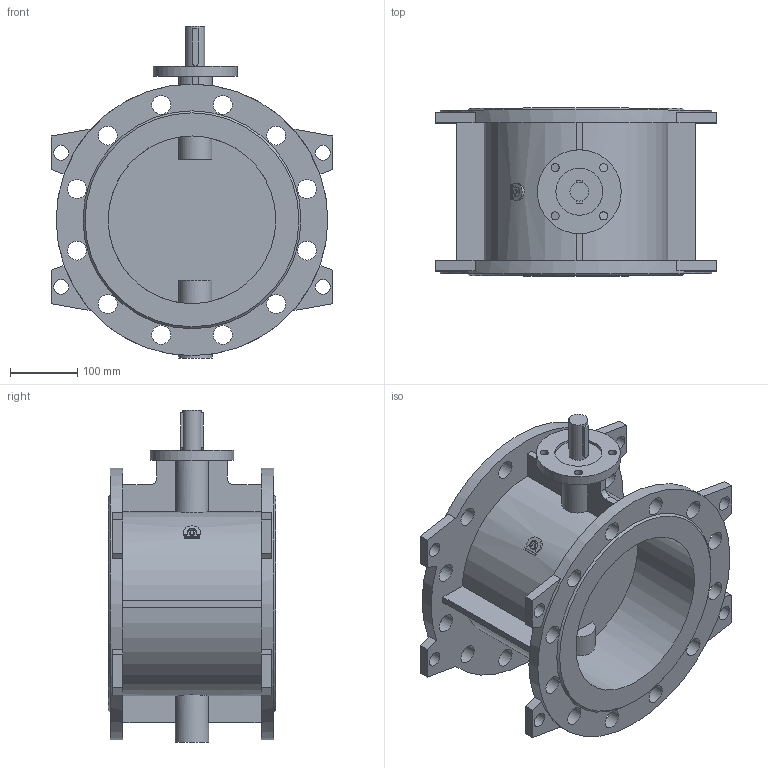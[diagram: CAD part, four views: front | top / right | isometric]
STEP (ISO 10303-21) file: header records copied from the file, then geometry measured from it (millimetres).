
FILE_DESCRIPTION(('STEP AP203'), '1');
FILE_NAME('Çàòâîð 023F.Z DN250 PN16 ïîä èñïîëíèòåëüíûé ìåõàíèçì', '', ('UNSPECIFIED'), ('UNSPECIFIED'), 'ASCON STEP Converter 1.6', 'ASCON Math Kernel', '');
FILE_SCHEMA(('CONFIG_CONTROL_DESIGN'));
Length unit declared in the file: millimetre
Bounding box: 420 x 250 x 495 mm (x, y, z)
Volume: 7513583.2 mm3; surface area: 967933.7 mm2
Topology: 1 solids, 1 shells, 150 faces, 405 edges, 270 vertices
Faces by surface type: plane 85, cylinder 63, cone 2
Full cylindrical faces by diameter (mm): 12 x4, 22 x8, 28 x25, 50 x1, 70 x1, 125 x1, 250 x2, 405 x2
Entity records: 7024 total; most frequent: CARTESIAN_POINT 1944, DIRECTION 782, ORIENTED_EDGE 716, EDGE_CURVE 358, AXIS2_PLACEMENT_3D 292, EDGE_LOOP 282, VERTEX_POINT 270, LINE 198
